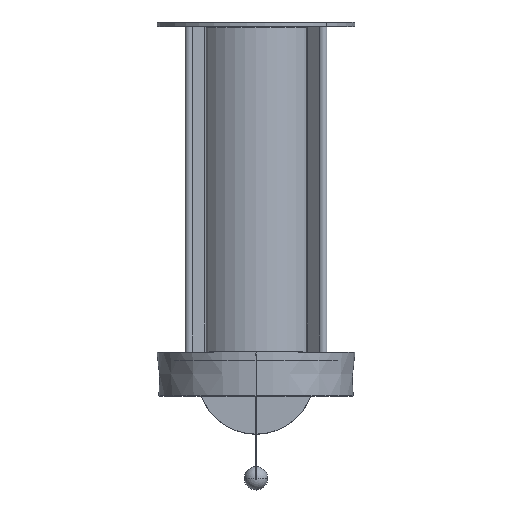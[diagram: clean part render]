
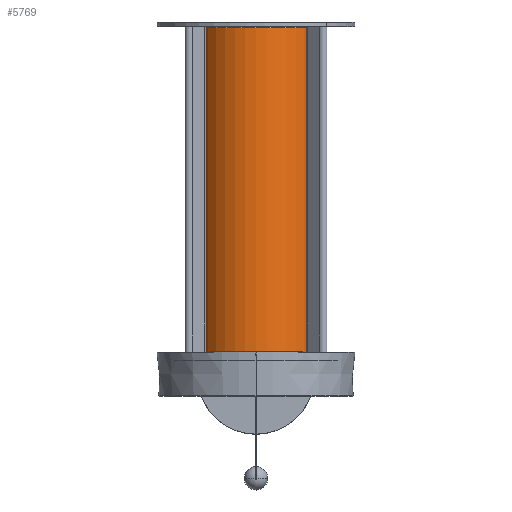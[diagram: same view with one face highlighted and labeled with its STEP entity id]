
A CAD part, top view. The second image highlights one B-rep face of the part: STEP entity #5769.
In plain terms, the highlighted cylindrical face has radius 42.5 mm (diameter 85 mm), a partial arc.
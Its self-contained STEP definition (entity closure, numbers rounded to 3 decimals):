
#5675=CARTESIAN_POINT('',(0.,251.,0.));
#5676=DIRECTION('',(0.,1.,0.));
#5677=DIRECTION('',(-1.,0.,0.));
#5678=AXIS2_PLACEMENT_3D('',#5675,#5676,#5677);
#5680=DIRECTION('',(0.,1.,0.));
#5681=VECTOR('',#5680,223.5);
#5682=CARTESIAN_POINT('',(42.5,27.5,0.));
#5683=LINE('',#5682,#5681);
#5684=CARTESIAN_POINT('',(0.,27.5,0.));
#5685=DIRECTION('',(0.,-1.,0.));
#5686=DIRECTION('',(1.,0.,0.));
#5687=AXIS2_PLACEMENT_3D('',#5684,#5685,#5686);
#5689=DIRECTION('',(0.,1.,0.));
#5690=VECTOR('',#5689,223.5);
#5691=CARTESIAN_POINT('',(-42.5,27.5,0.));
#5692=LINE('',#5691,#5690);
#5703=CARTESIAN_POINT('',(42.5,27.5,0.));
#5704=CARTESIAN_POINT('',(-42.5,27.5,0.));
#5705=VERTEX_POINT('',#5703);
#5706=VERTEX_POINT('',#5704);
#5711=CARTESIAN_POINT('',(42.5,251.,0.));
#5712=CARTESIAN_POINT('',(-42.5,251.,0.));
#5713=VERTEX_POINT('',#5711);
#5714=VERTEX_POINT('',#5712);
#5755=CARTESIAN_POINT('',(0.,252.,0.));
#5756=DIRECTION('',(0.,1.,0.));
#5757=DIRECTION('',(1.,0.,0.));
#5758=AXIS2_PLACEMENT_3D('',#5755,#5756,#5757);
#5759=CYLINDRICAL_SURFACE('',#5758,42.5);
#5760=ORIENTED_EDGE('',*,*,#5749,.T.);
#5762=ORIENTED_EDGE('',*,*,#5761,.F.);
#5764=ORIENTED_EDGE('',*,*,#5763,.T.);
#5766=ORIENTED_EDGE('',*,*,#5765,.T.);
#5767=EDGE_LOOP('',(#5760,#5762,#5764,#5766));
#5768=FACE_OUTER_BOUND('',#5767,.F.);
#5769=ADVANCED_FACE('',(#5768),#5759,.T.);
#5679=CIRCLE('',#5678,42.5);
#5688=CIRCLE('',#5687,42.5);
#5749=EDGE_CURVE('',#5714,#5713,#5679,.T.);
#5761=EDGE_CURVE('',#5705,#5713,#5683,.T.);
#5763=EDGE_CURVE('',#5705,#5706,#5688,.T.);
#5765=EDGE_CURVE('',#5706,#5714,#5692,.T.);
